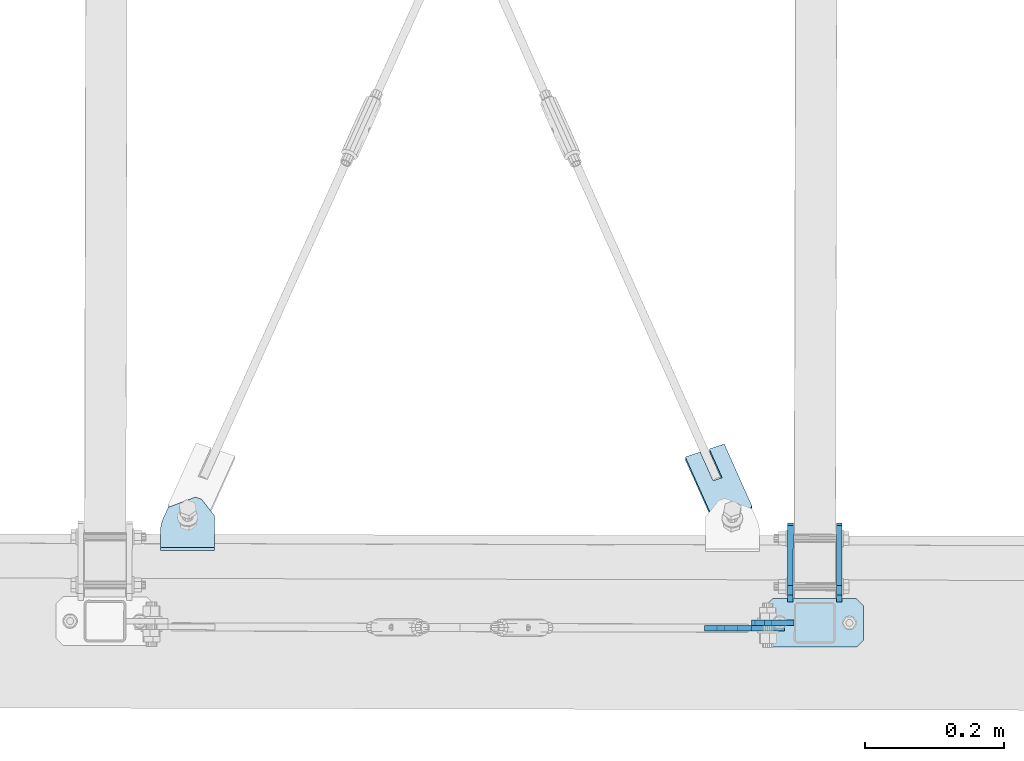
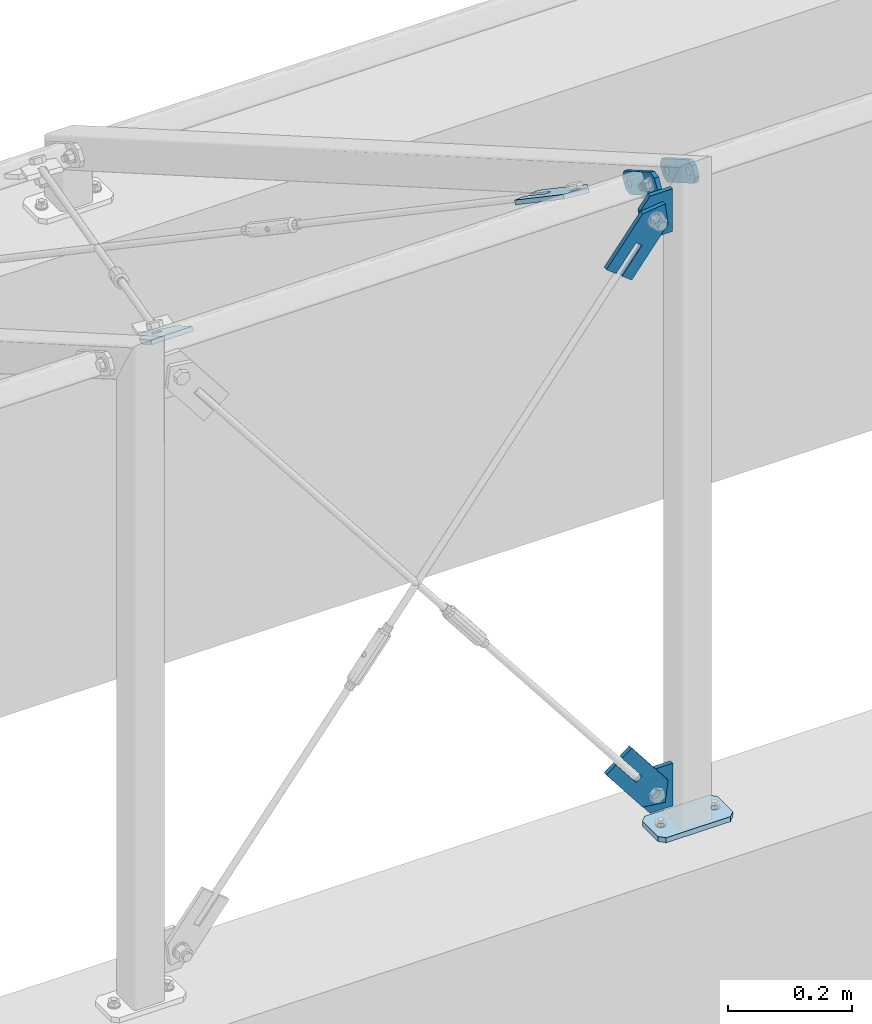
# One storey, part 34 of 288: 9 plates, 38 openings.
"""IFC2X3 building model written with IfcOpenShell, lengths in millimetres."""

from ifc_helpers import new_model, entity, si_unit, converted_unit, point, frame, frame_2d, origin, origin_with_axes, origin_2d_with_axis, place, context, project, spatial, polyline, circle_curve, line_curve, trimmed, segment, composite_curve, circle, outline, extrude, material, layer, layer_set, element, save


model = new_model("IFC2X3")

# Units and contexts
model_context = context("Model", 3, precision=1e-09, world=origin_with_axes())
ifc_project = project(units=[si_unit("LENGTHUNIT", "METRE", prefix="MILLI"), si_unit("AREAUNIT", "SQUARE_METRE"), si_unit("VOLUMEUNIT", "CUBIC_METRE"), converted_unit("PLANEANGLEUNIT", "DEGREE", entity("IfcPlaneAngleMeasure", 0.01745329), si_unit("PLANEANGLEUNIT", "RADIAN"), dimensions=[0, 0, 0, 0, 0, 0, 0])], contexts=[model_context])

# Site, building, storey
site_placement = place(None, origin_with_axes())
site = spatial("IfcSite", under=ifc_project, at=site_placement, Name="Remont ?wietlik?w nad MC w NCPP w Opolu", CompositionType="ELEMENT")
building_placement = place(site_placement, origin_with_axes())
building = spatial("IfcBuilding", under=site, at=building_placement, Name="Konstrukcja 1", CompositionType="ELEMENT")
storey_placement = place(building_placement, origin_with_axes())
storey = spatial("IfcBuildingStorey", under=building, at=storey_placement, Name="Default Storey", CompositionType="ELEMENT", Elevation=0.0)

# Plate, openings
ifc_material = material(Name="S235")
ifc_layer_1 = layer(ifc_material, 8.0)
ifc_layer_set_1 = layer_set([ifc_layer_1], Name="S235")
plate_1_placement = place(None, frame((7047.331185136, -116.235143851, 1232.672792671), z_axis=(0.999997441, -0.002262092, 1.05e-07), x_axis=(0.001959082, 0.866023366, -0.499999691)))
plate_1 = element("IfcPlate", 1, at=plate_1_placement, inside=storey, material=ifc_layer_set_1, Name="-", ObjectType="-", context=model_context, shape_type="SweptSolid", body=[
    extrude(outline(polyline([(0.0, 0.0), (120.0, 0.0), (120.0, 40.0), (0.0, 40.0), (0.0, 0.0)])), origin_with_axes(), (0.0, 0.0, 1.0), 8.0),
])
opening_1_placement = place(plate_1_placement, frame((0.0, 0.0, -0.01), z_axis=(0.0, 0.0, 1.0), x_axis=(1.0, 0.0, 0.0)))
element("IfcOpeningElement", 2, at=opening_1_placement, cuts=plate_1, ObjectType="Opening", context=model_context, shape_type="SweptSolid", body=[
    extrude(outline(composite_curve([segment(trimmed(line_curve((0.0, 40.0), (0.0, -1.0), 10.0), [point((0.0, 40.0))], [point((0.0, 30.0))], True, "CARTESIAN"), True, "CONTINUOUS"), segment(trimmed(circle_curve(frame_2d((10.0, 30.0), x_axis=(-1.0, 0.0)), 10.0), [point((0.0, 30.0))], [point((10.0, 40.0))], False, "CARTESIAN"), True, "CONTINUOUS"), segment(trimmed(line_curve((10.0, 40.0), (-1.0, 0.0), 10.0), [point((10.0, 40.0))], [point((0.0, 40.0))], True, "CARTESIAN"), True, "CONTINUOUS")], self_intersect=False)), origin(), (0.0, 0.0, 1.0), 8.02),
])
opening_2_placement = place(plate_1_placement, frame((0.0, 0.0, -0.01), z_axis=(0.0, 0.0, 1.0), x_axis=(1.0, 0.0, 0.0)))
element("IfcOpeningElement", 3, at=opening_2_placement, cuts=plate_1, ObjectType="Opening", context=model_context, shape_type="SweptSolid", body=[
    extrude(outline(composite_curve([segment(trimmed(line_curve((0.0, 0.0), (1.0, 0.0), 10.0), [point((0.0, 0.0))], [point((10.0, 0.0))], True, "CARTESIAN"), True, "CONTINUOUS"), segment(trimmed(circle_curve(frame_2d((10.0, 10.0), x_axis=(-1.0, 0.0)), 10.0), [point((10.0, 0.0))], [point((0.0, 10.0))], False, "CARTESIAN"), True, "CONTINUOUS"), segment(trimmed(line_curve((0.0, 10.0), (0.0, -1.0), 10.0), [point((0.0, 10.0))], [point((0.0, 0.0))], True, "CARTESIAN"), True, "CONTINUOUS")], self_intersect=False)), origin(), (0.0, 0.0, 1.0), 8.02),
])
opening_3_placement = place(plate_1_placement, frame((0.0, 0.0, -0.01), z_axis=(0.0, 0.0, 1.0), x_axis=(1.0, 0.0, 0.0)))
element("IfcOpeningElement", 4, at=opening_3_placement, cuts=plate_1, ObjectType="Opening", context=model_context, shape_type="SweptSolid", body=[
    extrude(outline(composite_curve([segment(trimmed(line_curve((120.0, 40.0), (-1.0, 0.0), 10.0), [point((120.0, 40.0))], [point((110.0, 40.0))], True, "CARTESIAN"), True, "CONTINUOUS"), segment(trimmed(circle_curve(frame_2d((110.0, 30.0), x_axis=(-1.0, 0.0)), 10.0), [point((110.0, 40.0))], [point((120.0, 30.0))], False, "CARTESIAN"), True, "CONTINUOUS"), segment(trimmed(line_curve((120.0, 30.0), (0.0, 1.0), 10.0), [point((120.0, 30.0))], [point((120.0, 40.0))], True, "CARTESIAN"), True, "CONTINUOUS")], self_intersect=False)), origin(), (0.0, 0.0, 1.0), 8.02),
])
opening_4_placement = place(plate_1_placement, frame((0.0, 0.0, -0.01), z_axis=(0.0, 0.0, 1.0), x_axis=(1.0, 0.0, 0.0)))
element("IfcOpeningElement", 5, at=opening_4_placement, cuts=plate_1, ObjectType="Opening", context=model_context, shape_type="SweptSolid", body=[
    extrude(outline(composite_curve([segment(trimmed(line_curve((120.0, 0.0), (0.0, 1.0), 10.0), [point((120.0, 0.0))], [point((120.0, 10.0))], True, "CARTESIAN"), True, "CONTINUOUS"), segment(trimmed(circle_curve(frame_2d((110.0, 10.0), x_axis=(-1.0, 0.0)), 10.0), [point((120.0, 10.0))], [point((110.0, 0.0))], False, "CARTESIAN"), True, "CONTINUOUS"), segment(trimmed(line_curve((110.0, 0.0), (1.0, 0.0), 10.0), [point((110.0, 0.0))], [point((120.0, 0.0))], True, "CARTESIAN"), True, "CONTINUOUS")], self_intersect=False)), origin(), (0.0, 0.0, 1.0), 8.02),
])
opening_5_placement = place(plate_1_placement, frame((27.001, 20.0, -0.5), z_axis=(0.0, 0.0, -1.0), x_axis=(-1.0, 0.0, 0.0)))
element("IfcOpeningElement", 6, at=opening_5_placement, cuts=plate_1, ObjectType="Opening", context=model_context, shape_type="SweptSolid", body=[
    extrude(circle(Radius=7.001, at=frame_2d((7.001, 0.0), x_axis=(1.0, 0.0))), origin(), (0.0, 0.0, -1.0), 9.0),
])
opening_6_placement = place(plate_1_placement, frame((107.001, 20.0, -0.5), z_axis=(0.0, 0.0, -1.0), x_axis=(-1.0, 0.0, 0.0)))
element("IfcOpeningElement", 7, at=opening_6_placement, cuts=plate_1, ObjectType="Opening", context=model_context, shape_type="SweptSolid", body=[
    extrude(circle(Radius=7.001, at=frame_2d((7.001, 0.0), x_axis=(1.0, 0.0))), origin(), (0.0, 0.0, -1.0), 9.0),
])

plate_2_placement = place(None, frame((6977.331213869, -116.076943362, 1232.672531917), z_axis=(0.999997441, -0.002262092, 1.05e-07), x_axis=(0.001959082, 0.866023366, -0.499999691)))
plate_2 = element("IfcPlate", 8, at=plate_2_placement, inside=storey, material=ifc_layer_set_1, Name="-", ObjectType="-", context=model_context, shape_type="SweptSolid", body=[
    extrude(outline(polyline([(0.0, 0.0), (120.0, 0.0), (120.0, 40.0), (0.0, 40.0), (0.0, 0.0)])), origin_with_axes(), (0.0, 0.0, 1.0), 8.0),
])
opening_7_placement = place(plate_2_placement, frame((0.0, 0.0, -0.01), z_axis=(0.0, 0.0, 1.0), x_axis=(1.0, 0.0, 0.0)))
element("IfcOpeningElement", 9, at=opening_7_placement, cuts=plate_2, ObjectType="Opening", context=model_context, shape_type="SweptSolid", body=[
    extrude(outline(composite_curve([segment(trimmed(line_curve((0.0, 40.0), (0.0, -1.0), 10.0), [point((0.0, 40.0))], [point((0.0, 30.0))], True, "CARTESIAN"), True, "CONTINUOUS"), segment(trimmed(circle_curve(frame_2d((10.0, 30.0), x_axis=(-1.0, 0.0)), 10.0), [point((0.0, 30.0))], [point((10.0, 40.0))], False, "CARTESIAN"), True, "CONTINUOUS"), segment(trimmed(line_curve((10.0, 40.0), (-1.0, 0.0), 10.0), [point((10.0, 40.0))], [point((0.0, 40.0))], True, "CARTESIAN"), True, "CONTINUOUS")], self_intersect=False)), origin(), (0.0, 0.0, 1.0), 8.02),
])
opening_8_placement = place(plate_2_placement, frame((0.0, 0.0, -0.01), z_axis=(0.0, 0.0, 1.0), x_axis=(1.0, 0.0, 0.0)))
element("IfcOpeningElement", 10, at=opening_8_placement, cuts=plate_2, ObjectType="Opening", context=model_context, shape_type="SweptSolid", body=[
    extrude(outline(composite_curve([segment(trimmed(line_curve((0.0, 0.0), (1.0, 0.0), 10.0), [point((0.0, 0.0))], [point((10.0, 0.0))], True, "CARTESIAN"), True, "CONTINUOUS"), segment(trimmed(circle_curve(frame_2d((10.0, 10.0), x_axis=(-1.0, 0.0)), 10.0), [point((10.0, 0.0))], [point((0.0, 10.0))], False, "CARTESIAN"), True, "CONTINUOUS"), segment(trimmed(line_curve((0.0, 10.0), (0.0, -1.0), 10.0), [point((0.0, 10.0))], [point((0.0, 0.0))], True, "CARTESIAN"), True, "CONTINUOUS")], self_intersect=False)), origin(), (0.0, 0.0, 1.0), 8.02),
])
opening_9_placement = place(plate_2_placement, frame((0.0, 0.0, -0.01), z_axis=(0.0, 0.0, 1.0), x_axis=(1.0, 0.0, 0.0)))
element("IfcOpeningElement", 11, at=opening_9_placement, cuts=plate_2, ObjectType="Opening", context=model_context, shape_type="SweptSolid", body=[
    extrude(outline(composite_curve([segment(trimmed(line_curve((120.0, 40.0), (-1.0, 0.0), 10.0), [point((120.0, 40.0))], [point((110.0, 40.0))], True, "CARTESIAN"), True, "CONTINUOUS"), segment(trimmed(circle_curve(frame_2d((110.0, 30.0), x_axis=(-1.0, 0.0)), 10.0), [point((110.0, 40.0))], [point((120.0, 30.0))], False, "CARTESIAN"), True, "CONTINUOUS"), segment(trimmed(line_curve((120.0, 30.0), (0.0, 1.0), 10.0), [point((120.0, 30.0))], [point((120.0, 40.0))], True, "CARTESIAN"), True, "CONTINUOUS")], self_intersect=False)), origin(), (0.0, 0.0, 1.0), 8.02),
])
opening_10_placement = place(plate_2_placement, frame((0.0, 0.0, -0.01), z_axis=(0.0, 0.0, 1.0), x_axis=(1.0, 0.0, 0.0)))
element("IfcOpeningElement", 12, at=opening_10_placement, cuts=plate_2, ObjectType="Opening", context=model_context, shape_type="SweptSolid", body=[
    extrude(outline(composite_curve([segment(trimmed(line_curve((120.0, 0.0), (0.0, 1.0), 10.0), [point((120.0, 0.0))], [point((120.0, 10.0))], True, "CARTESIAN"), True, "CONTINUOUS"), segment(trimmed(circle_curve(frame_2d((110.0, 10.0), x_axis=(-1.0, 0.0)), 10.0), [point((120.0, 10.0))], [point((110.0, 0.0))], False, "CARTESIAN"), True, "CONTINUOUS"), segment(trimmed(line_curve((110.0, 0.0), (1.0, 0.0), 10.0), [point((110.0, 0.0))], [point((120.0, 0.0))], True, "CARTESIAN"), True, "CONTINUOUS")], self_intersect=False)), origin(), (0.0, 0.0, 1.0), 8.02),
])
opening_11_placement = place(plate_2_placement, frame((27.001, 20.000292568, -0.5), z_axis=(0.0, 0.0, -1.0), x_axis=(-1.0, 0.0, 0.0)))
element("IfcOpeningElement", 13, at=opening_11_placement, cuts=plate_2, ObjectType="Opening", context=model_context, shape_type="SweptSolid", body=[
    extrude(circle(Radius=7.001, at=frame_2d((7.001, 0.0), x_axis=(1.0, 0.0))), origin(), (0.0, 0.0, -1.0), 9.0),
])
opening_12_placement = place(plate_2_placement, frame((107.001, 20.000292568, -0.5), z_axis=(0.0, 0.0, -1.0), x_axis=(-1.0, 0.0, 0.0)))
element("IfcOpeningElement", 14, at=opening_12_placement, cuts=plate_2, ObjectType="Opening", context=model_context, shape_type="SweptSolid", body=[
    extrude(circle(Radius=7.001, at=frame_2d((7.001, 0.0), x_axis=(1.0, 0.0))), origin(), (0.0, 0.0, -1.0), 9.0),
])

ifc_layer_2 = layer(ifc_material, 10.0)
ifc_layer_set_2 = layer_set([ifc_layer_2], Name="S235")
plate_3_placement = place(None, frame((7086.354406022, -105.97632538, 10.00000014), z_axis=(0.0, 0.0, -1.0), x_axis=(-0.002261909, -0.999997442, 0.0)))
plate_3 = element("IfcPlate", 15, at=plate_3_placement, inside=storey, material=ifc_layer_set_2, Name="Baseplate", ObjectType="Baseplate", context=model_context, shape_type="SweptSolid", body=[
    extrude(outline(polyline([(0.0, 0.0), (70.0, 0.0), (70.0, 140.0), (0.0, 140.0), (0.0, 0.0)])), origin_with_axes(), (0.0, 0.0, 1.0), 10.0),
])
opening_13_placement = place(plate_3_placement, frame((0.0, 0.0, -0.01), z_axis=(0.0, 0.0, 1.0), x_axis=(1.0, 0.0, 0.0)))
element("IfcOpeningElement", 16, at=opening_13_placement, cuts=plate_3, ObjectType="Opening", context=model_context, shape_type="SweptSolid", body=[
    extrude(outline(composite_curve([segment(trimmed(line_curve((70.0, 0.0), (0.0, 1.0), 10.0), [point((70.0, 0.0))], [point((70.0, 10.0))], True, "CARTESIAN"), True, "CONTINUOUS"), segment(trimmed(circle_curve(frame_2d((60.0, 10.0), x_axis=(-1.0, 0.0)), 10.0), [point((70.0, 10.0))], [point((60.0, 0.0))], False, "CARTESIAN"), True, "CONTINUOUS"), segment(trimmed(line_curve((60.0, 0.0), (1.0, 0.0), 10.0), [point((60.0, 0.0))], [point((70.0, 0.0))], True, "CARTESIAN"), True, "CONTINUOUS")], self_intersect=False)), origin(), (0.0, 0.0, 1.0), 10.02),
])
opening_14_placement = place(plate_3_placement, frame((0.0, 0.0, -0.01), z_axis=(0.0, 0.0, 1.0), x_axis=(1.0, 0.0, 0.0)))
element("IfcOpeningElement", 17, at=opening_14_placement, cuts=plate_3, ObjectType="Opening", context=model_context, shape_type="SweptSolid", body=[
    extrude(outline(composite_curve([segment(trimmed(line_curve((0.0, 0.0), (1.0, 0.0), 10.0), [point((0.0, 0.0))], [point((10.0, 0.0))], True, "CARTESIAN"), True, "CONTINUOUS"), segment(trimmed(circle_curve(frame_2d((10.0, 10.0), x_axis=(-1.0, 0.0)), 10.0), [point((10.0, 0.0))], [point((0.0, 10.0))], False, "CARTESIAN"), True, "CONTINUOUS"), segment(trimmed(line_curve((0.0, 10.0), (0.0, -1.0), 10.0), [point((0.0, 10.0))], [point((0.0, 0.0))], True, "CARTESIAN"), True, "CONTINUOUS")], self_intersect=False)), origin(), (0.0, 0.0, 1.0), 10.02),
])
opening_15_placement = place(plate_3_placement, frame((0.0, 0.0, -0.01), z_axis=(0.0, 0.0, 1.0), x_axis=(1.0, 0.0, 0.0)))
element("IfcOpeningElement", 18, at=opening_15_placement, cuts=plate_3, ObjectType="Opening", context=model_context, shape_type="SweptSolid", body=[
    extrude(outline(composite_curve([segment(trimmed(line_curve((70.0, 140.0), (-1.0, 0.0), 10.0), [point((70.0, 140.0))], [point((60.0, 140.0))], True, "CARTESIAN"), True, "CONTINUOUS"), segment(trimmed(circle_curve(frame_2d((60.0, 130.0), x_axis=(-1.0, 0.0)), 10.0), [point((60.0, 140.0))], [point((70.0, 130.0))], False, "CARTESIAN"), True, "CONTINUOUS"), segment(trimmed(line_curve((70.0, 130.0), (0.0, 1.0), 10.0), [point((70.0, 130.0))], [point((70.0, 140.0))], True, "CARTESIAN"), True, "CONTINUOUS")], self_intersect=False)), origin(), (0.0, 0.0, 1.0), 10.02),
])
opening_16_placement = place(plate_3_placement, frame((0.0, 0.0, -0.01), z_axis=(0.0, 0.0, 1.0), x_axis=(1.0, 0.0, 0.0)))
element("IfcOpeningElement", 19, at=opening_16_placement, cuts=plate_3, ObjectType="Opening", context=model_context, shape_type="SweptSolid", body=[
    extrude(outline(composite_curve([segment(trimmed(line_curve((0.0, 140.0), (0.0, -1.0), 10.0), [point((0.0, 140.0))], [point((0.0, 130.0))], True, "CARTESIAN"), True, "CONTINUOUS"), segment(trimmed(circle_curve(frame_2d((10.0, 130.0), x_axis=(-1.0, 0.0)), 10.0), [point((0.0, 130.0))], [point((10.0, 140.0))], False, "CARTESIAN"), True, "CONTINUOUS"), segment(trimmed(line_curve((10.0, 140.0), (-1.0, 0.0), 10.0), [point((10.0, 140.0))], [point((0.0, 140.0))], True, "CARTESIAN"), True, "CONTINUOUS")], self_intersect=False)), origin(), (0.0, 0.0, 1.0), 10.02),
])
opening_17_placement = place(plate_3_placement, frame((35.0, 20.0, 10.5), z_axis=(0.0, 0.0, -1.0), x_axis=(1.0, 0.0, 0.0)))
element("IfcOpeningElement", 20, at=opening_17_placement, cuts=plate_3, ObjectType="Opening", context=model_context, shape_type="SweptSolid", body=[
    extrude(circle(Radius=6.001, at=origin_2d_with_axis()), origin(), (0.0, 0.0, 1.0), 11.0),
])
opening_18_placement = place(plate_3_placement, frame((35.0, 120.0, 10.5), z_axis=(0.0, 0.0, -1.0), x_axis=(1.0, 0.0, 0.0)))
element("IfcOpeningElement", 21, at=opening_18_placement, cuts=plate_3, ObjectType="Opening", context=model_context, shape_type="SweptSolid", body=[
    extrude(circle(Radius=6.001, at=origin_2d_with_axis()), origin(), (0.0, 0.0, 1.0), 11.0),
])

plate_4_placement = place(None, frame((6857.970597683, -144.461027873, 1151.097861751), z_axis=(-0.002254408, -0.999997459, 0.0), x_axis=(0.788044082, -0.001776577, -0.615616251)))
plate_4 = element("IfcPlate", 22, at=plate_4_placement, inside=storey, material=ifc_layer_set_1, Name="Tab_Plate#2", ObjectType="Tab_Plate#2", context=model_context, shape_type="SweptSolid", body=[
    extrude(outline(polyline([(0.0, 0.0), (60.0, 0.0), (60.0, 140.0), (0.0, 140.0), (0.0, 0.0)])), origin_with_axes(), (0.0, 0.0, 1.0), 8.0),
])
opening_19_placement = place(plate_4_placement, frame((0.0, 0.0, -0.01), z_axis=(0.0, 0.0, 1.0), x_axis=(1.0, 0.0, 0.0)))
element("IfcOpeningElement", 23, at=opening_19_placement, cuts=plate_4, ObjectType="Opening", context=model_context, shape_type="SweptSolid", body=[
    extrude(outline(composite_curve([segment(trimmed(line_curve((60.0, 140.0), (-1.0, 0.0), 30.0), [point((60.0, 140.0))], [point((30.0, 140.0))], True, "CARTESIAN"), True, "CONTINUOUS"), segment(trimmed(circle_curve(frame_2d((30.0, 110.0), x_axis=(-1.0, 0.0)), 30.0), [point((30.0, 140.0))], [point((60.0, 110.0))], False, "CARTESIAN"), True, "CONTINUOUS"), segment(trimmed(line_curve((60.0, 110.0), (0.0, 1.0), 30.0), [point((60.0, 110.0))], [point((60.0, 140.0))], True, "CARTESIAN"), True, "CONTINUOUS")], self_intersect=False)), origin(), (0.0, 0.0, 1.0), 8.02),
])
opening_20_placement = place(plate_4_placement, frame((0.0, 0.0, -0.01), z_axis=(0.0, 0.0, 1.0), x_axis=(1.0, 0.0, 0.0)))
element("IfcOpeningElement", 24, at=opening_20_placement, cuts=plate_4, ObjectType="Opening", context=model_context, shape_type="SweptSolid", body=[
    extrude(outline(composite_curve([segment(trimmed(line_curve((0.0, 140.0), (0.0, -1.0), 30.0), [point((0.0, 140.0))], [point((0.0, 110.0))], True, "CARTESIAN"), True, "CONTINUOUS"), segment(trimmed(circle_curve(frame_2d((30.0, 110.0), x_axis=(-1.0, 0.0)), 30.0), [point((0.0, 110.0))], [point((30.0, 140.0))], False, "CARTESIAN"), True, "CONTINUOUS"), segment(trimmed(line_curve((30.0, 140.0), (-1.0, 0.0), 30.0), [point((30.0, 140.0))], [point((0.0, 140.0))], True, "CARTESIAN"), True, "CONTINUOUS")], self_intersect=False)), origin(), (0.0, 0.0, 1.0), 8.02),
])
opening_21_placement = place(plate_4_placement, frame((0.0, 0.0, 8.1), z_axis=(0.0, 0.0, -1.0), x_axis=(-0.788046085, -0.615616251, 0.0)))
element("IfcOpeningElement", 25, at=opening_21_placement, cuts=plate_4, ObjectType="Opening", context=model_context, shape_type="SweptSolid", body=[
    extrude(outline(polyline([(-55.677478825, 33.913041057), (-66.711700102, 25.293182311), (-29.157877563, -22.779204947), (-18.123656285, -14.159346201), (-55.677478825, 33.913041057)])), origin(), (0.0, 0.0, 1.0), 8.2),
])
opening_22_placement = place(plate_4_placement, frame((30.0, 110.0, 8.5), z_axis=(0.0, 0.0, -1.0), x_axis=(0.0, -1.0, 0.0)))
element("IfcOpeningElement", 26, at=opening_22_placement, cuts=plate_4, ObjectType="Opening", context=model_context, shape_type="SweptSolid", body=[
    extrude(circle(Radius=9.001, at=origin_2d_with_axis()), origin(), (0.0, 0.0, 1.0), 9.0),
])

plate_5_placement = place(None, frame((6954.502417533, -144.67865049, 1177.20457347), z_axis=(0.002254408, 0.999997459, 0.0), x_axis=(-0.788044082, 0.001776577, 0.615616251)))
plate_5 = element("IfcPlate", 27, at=plate_5_placement, inside=storey, material=ifc_layer_set_1, Name="Gusset#2", ObjectType="Gusset#2", context=model_context, shape_type="SweptSolid", body=[
    extrude(outline(polyline([(0.0, 0.0), (60.0, 0.0), (60.0, 60.0), (26.815458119, 85.923538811), (-25.031582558, 19.554502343), (0.0, 0.0)])), origin_with_axes(), (0.0, 0.0, 1.0), 8.0),
])
opening_23_placement = place(plate_5_placement, frame((30.0, 30.0, -0.5), z_axis=(0.0, 0.0, 1.0), x_axis=(0.0, -1.0, 0.0)))
element("IfcOpeningElement", 28, at=opening_23_placement, cuts=plate_5, ObjectType="Opening", context=model_context, shape_type="SweptSolid", body=[
    extrude(circle(Radius=9.001, at=origin_2d_with_axis()), origin(), (0.0, 0.0, 1.0), 9.0),
])
opening_24_placement = place(plate_5_placement, frame((0.0, 0.0, -0.01), z_axis=(0.0, 0.0, 1.0), x_axis=(1.0, 0.0, 0.0)))
element("IfcOpeningElement", 29, at=opening_24_placement, cuts=plate_5, ObjectType="Opening", context=model_context, shape_type="SweptSolid", body=[
    extrude(outline(composite_curve([segment(trimmed(line_curve((60.0, 0.0), (0.0, 1.0), 30.0), [point((60.0, 0.0))], [point((60.0, 30.0))], True, "CARTESIAN"), True, "CONTINUOUS"), segment(trimmed(circle_curve(frame_2d((30.0, 30.0), x_axis=(-1.0, 0.0)), 30.0), [point((60.0, 30.0))], [point((30.0, 0.0))], False, "CARTESIAN"), True, "CONTINUOUS"), segment(trimmed(line_curve((30.0, 0.0), (1.0, 0.0), 30.0), [point((30.0, 0.0))], [point((60.0, 0.0))], True, "CARTESIAN"), True, "CONTINUOUS")], self_intersect=False)), origin(), (0.0, 0.0, 1.0), 8.02),
])

plate_6_placement = place(None, frame((6857.952490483, -152.466280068, 153.902138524), z_axis=(0.002269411, 0.999997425, 0.0), x_axis=(0.788044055, -0.0017884, 0.615616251)))
plate_6 = element("IfcPlate", 30, at=plate_6_placement, inside=storey, material=ifc_layer_set_1, Name="Tab_Plate#1", ObjectType="Tab_Plate#1", context=model_context, shape_type="SweptSolid", body=[
    extrude(outline(polyline([(0.0, 0.0), (60.0, 0.0), (60.0, 140.0), (0.0, 140.0), (0.0, 0.0)])), origin_with_axes(), (0.0, 0.0, 1.0), 8.0),
])
opening_25_placement = place(plate_6_placement, frame((0.0, 0.0, -0.01), z_axis=(0.0, 0.0, 1.0), x_axis=(1.0, 0.0, 0.0)))
element("IfcOpeningElement", 31, at=opening_25_placement, cuts=plate_6, ObjectType="Opening", context=model_context, shape_type="SweptSolid", body=[
    extrude(outline(composite_curve([segment(trimmed(line_curve((60.0, 140.0), (-1.0, 0.0), 30.0), [point((60.0, 140.0))], [point((30.0, 140.0))], True, "CARTESIAN"), True, "CONTINUOUS"), segment(trimmed(circle_curve(frame_2d((30.0, 110.0), x_axis=(-1.0, 0.0)), 30.0), [point((30.0, 140.0))], [point((60.0, 110.0))], False, "CARTESIAN"), True, "CONTINUOUS"), segment(trimmed(line_curve((60.0, 110.0), (0.0, 1.0), 30.0), [point((60.0, 110.0))], [point((60.0, 140.0))], True, "CARTESIAN"), True, "CONTINUOUS")], self_intersect=False)), origin(), (0.0, 0.0, 1.0), 8.02),
])
opening_26_placement = place(plate_6_placement, frame((0.0, 0.0, -0.01), z_axis=(0.0, 0.0, 1.0), x_axis=(1.0, 0.0, 0.0)))
element("IfcOpeningElement", 32, at=opening_26_placement, cuts=plate_6, ObjectType="Opening", context=model_context, shape_type="SweptSolid", body=[
    extrude(outline(composite_curve([segment(trimmed(line_curve((0.0, 140.0), (0.0, -1.0), 30.0), [point((0.0, 140.0))], [point((0.0, 110.0))], True, "CARTESIAN"), True, "CONTINUOUS"), segment(trimmed(circle_curve(frame_2d((30.0, 110.0), x_axis=(-1.0, 0.0)), 30.0), [point((0.0, 110.0))], [point((30.0, 140.0))], False, "CARTESIAN"), True, "CONTINUOUS"), segment(trimmed(line_curve((30.0, 140.0), (-1.0, 0.0), 30.0), [point((30.0, 140.0))], [point((0.0, 140.0))], True, "CARTESIAN"), True, "CONTINUOUS")], self_intersect=False)), origin(), (0.0, 0.0, 1.0), 8.02),
])
opening_27_placement = place(plate_6_placement, frame((0.0, 0.0, 8.1), z_axis=(0.0, 0.0, -1.0), x_axis=(0.788046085, 0.615616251, 0.0)))
element("IfcOpeningElement", 33, at=opening_27_placement, cuts=plate_6, ObjectType="Opening", context=model_context, shape_type="SweptSolid", body=[
    extrude(outline(polyline([(55.677478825, -33.913041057), (66.711700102, -25.293182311), (29.157877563, 22.779204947), (18.123656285, 14.159346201), (55.677478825, -33.913041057)])), origin(), (0.0, 0.0, 1.0), 8.2),
])
opening_28_placement = place(plate_6_placement, frame((30.0, 110.0, 8.5), z_axis=(0.0, 0.0, -1.0), x_axis=(0.0, -1.0, 0.0)))
element("IfcOpeningElement", 34, at=opening_28_placement, cuts=plate_6, ObjectType="Opening", context=model_context, shape_type="SweptSolid", body=[
    extrude(circle(Radius=9.001, at=origin_2d_with_axis()), origin(), (0.0, 0.0, 1.0), 9.0),
])

plate_7_placement = place(None, frame((6954.520617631, -136.685392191, 127.795426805), z_axis=(-0.002269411, -0.999997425, 0.0), x_axis=(-0.788044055, 0.0017884, -0.615616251)))
plate_7 = element("IfcPlate", 35, at=plate_7_placement, inside=storey, material=ifc_layer_set_1, Name="Gusset#1", ObjectType="Gusset#1", context=model_context, shape_type="SweptSolid", body=[
    extrude(outline(polyline([(0.0, 0.0), (60.0, 0.0), (60.0, 60.0), (26.815552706, 85.923464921), (-25.031487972, 19.554428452), (0.0, 0.0)])), origin_with_axes(), (0.0, 0.0, 1.0), 8.0),
])
opening_29_placement = place(plate_7_placement, frame((30.0, 30.0, -0.5), z_axis=(0.0, 0.0, 1.0), x_axis=(0.0, -1.0, 0.0)))
element("IfcOpeningElement", 36, at=opening_29_placement, cuts=plate_7, ObjectType="Opening", context=model_context, shape_type="SweptSolid", body=[
    extrude(circle(Radius=9.001, at=origin_2d_with_axis()), origin(), (0.0, 0.0, 1.0), 9.0),
])
opening_30_placement = place(plate_7_placement, frame((0.0, 0.0, -0.01), z_axis=(0.0, 0.0, 1.0), x_axis=(1.0, 0.0, 0.0)))
element("IfcOpeningElement", 37, at=opening_30_placement, cuts=plate_7, ObjectType="Opening", context=model_context, shape_type="SweptSolid", body=[
    extrude(outline(composite_curve([segment(trimmed(line_curve((60.0, 0.0), (0.0, 1.0), 30.0), [point((60.0, 0.0))], [point((60.0, 30.0))], True, "CARTESIAN"), True, "CONTINUOUS"), segment(trimmed(circle_curve(frame_2d((30.0, 30.0), x_axis=(-1.0, 0.0)), 30.0), [point((60.0, 30.0))], [point((30.0, 0.0))], False, "CARTESIAN"), True, "CONTINUOUS"), segment(trimmed(line_curve((30.0, 0.0), (1.0, 0.0), 30.0), [point((30.0, 0.0))], [point((60.0, 0.0))], True, "CARTESIAN"), True, "CONTINUOUS")], self_intersect=False)), origin(), (0.0, 0.0, 1.0), 8.02),
])

plate_8_placement = place(None, frame((6154.558738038, 26.287485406, 1170.024777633), z_axis=(0.001127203, 0.499998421, 0.866025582), x_axis=(-0.931267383, 0.316048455, -0.181257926)))
plate_8 = element("IfcPlate", 38, at=plate_8_placement, inside=storey, material=ifc_layer_set_1, Name="Gusset#1", ObjectType="Gusset#1", context=model_context, shape_type="SweptSolid", body=[
    extrude(outline(polyline([(0.0, 0.0), (60.0, 0.0), (60.0, 60.0), (45.922042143, 96.193155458), (-26.464268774, 68.037239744), (0.0, 0.0)])), origin_with_axes(), (0.0, 0.0, 1.0), 8.0),
])
opening_31_placement = place(plate_8_placement, frame((30.0, 30.0, -0.5), z_axis=(0.0, 0.0, 1.0), x_axis=(0.0, -1.0, 0.0)))
element("IfcOpeningElement", 39, at=opening_31_placement, cuts=plate_8, ObjectType="Opening", context=model_context, shape_type="SweptSolid", body=[
    extrude(circle(Radius=9.001, at=origin_2d_with_axis()), origin(), (0.0, 0.0, 1.0), 9.0),
])
opening_32_placement = place(plate_8_placement, frame((0.0, 0.0, -0.01), z_axis=(0.0, 0.0, 1.0), x_axis=(1.0, 0.0, 0.0)))
element("IfcOpeningElement", 40, at=opening_32_placement, cuts=plate_8, ObjectType="Opening", context=model_context, shape_type="SweptSolid", body=[
    extrude(outline(composite_curve([segment(trimmed(line_curve((60.0, 0.0), (0.0, 1.0), 30.0), [point((60.0, 0.0))], [point((60.0, 30.0))], True, "CARTESIAN"), True, "CONTINUOUS"), segment(trimmed(circle_curve(frame_2d((30.0, 30.0), x_axis=(-1.0, 0.0)), 30.0), [point((60.0, 30.0))], [point((30.0, 0.0))], False, "CARTESIAN"), True, "CONTINUOUS"), segment(trimmed(line_curve((30.0, 0.0), (1.0, 0.0), 30.0), [point((30.0, 0.0))], [point((60.0, 0.0))], True, "CARTESIAN"), True, "CONTINUOUS")], self_intersect=False)), origin(), (0.0, 0.0, 1.0), 8.02),
])
opening_33_placement = place(plate_8_placement, frame((0.0, 0.0, -0.01), z_axis=(0.0, 0.0, 1.0), x_axis=(1.0, 0.0, 0.0)))
element("IfcOpeningElement", 41, at=opening_33_placement, cuts=plate_8, ObjectType="Opening", context=model_context, shape_type="SweptSolid", body=[
    extrude(outline(composite_curve([segment(trimmed(line_curve((0.0, 0.0), (1.0, 0.0), 20.520511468), [point((0.0, 0.0))], [point((20.520511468, 0.0))], True, "CARTESIAN"), True, "CONTINUOUS"), segment(trimmed(circle_curve(frame_2d((20.520511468, 30.0), x_axis=(-1.0, 0.0)), 30.0), [point((20.520511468, 0.0))], [point((-7.438887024, 19.124705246))], False, "CARTESIAN"), True, "CONTINUOUS"), segment(trimmed(line_curve((-7.438887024, 19.124705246), (0.362509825, -0.93197995), 20.520511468), [point((-7.438887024, 19.124705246))], [point((0.0, 0.0))], True, "CARTESIAN"), True, "CONTINUOUS")], self_intersect=False)), origin(), (0.0, 0.0, 1.0), 8.02),
])
opening_34_placement = place(plate_8_placement, frame((0.0, 0.0, -0.01), z_axis=(0.0, 0.0, 1.0), x_axis=(1.0, 0.0, 0.0)))
element("IfcOpeningElement", 42, at=opening_34_placement, cuts=plate_8, ObjectType="Opening", context=model_context, shape_type="SweptSolid", body=[
    extrude(outline(composite_curve([segment(trimmed(line_curve((60.0, 60.0), (-0.362509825, 0.93197995), 5.62909297), [point((60.0, 60.0))], [point((57.959398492, 65.246201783))], True, "CARTESIAN"), True, "CONTINUOUS"), segment(trimmed(circle_curve(frame_2d((30.0, 54.37090703), x_axis=(-1.0, 0.0)), 30.0), [point((57.959398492, 65.246201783))], [point((60.0, 54.37090703))], False, "CARTESIAN"), True, "CONTINUOUS"), segment(trimmed(line_curve((60.0, 54.37090703), (0.0, 1.0), 5.62909297), [point((60.0, 54.37090703))], [point((60.0, 60.0))], True, "CARTESIAN"), True, "CONTINUOUS")], self_intersect=False)), origin(), (0.0, 0.0, 1.0), 8.02),
])

plate_9_placement = place(None, frame((6886.400452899, 112.039626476, 1128.800973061), z_axis=(0.001127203, 0.499998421, 0.866025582), x_axis=(-0.932687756, -0.311835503, 0.181251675)))
plate_9 = element("IfcPlate", 43, at=plate_9_placement, inside=storey, material=ifc_layer_set_1, Name="Tab_Plate#1", ObjectType="Tab_Plate#1", context=model_context, shape_type="SweptSolid", body=[
    extrude(outline(polyline([(0.0, 0.0), (60.0, 0.0), (60.0, 140.0), (0.0, 140.0), (0.0, 0.0)])), origin_with_axes(), (0.0, 0.0, 1.0), 8.0),
])
opening_35_placement = place(plate_9_placement, frame((0.0, 0.0, -0.01), z_axis=(0.0, 0.0, 1.0), x_axis=(1.0, 0.0, 0.0)))
element("IfcOpeningElement", 44, at=opening_35_placement, cuts=plate_9, ObjectType="Opening", context=model_context, shape_type="SweptSolid", body=[
    extrude(outline(composite_curve([segment(trimmed(line_curve((60.0, 140.0), (-1.0, 0.0), 30.0), [point((60.0, 140.0))], [point((30.0, 140.0))], True, "CARTESIAN"), True, "CONTINUOUS"), segment(trimmed(circle_curve(frame_2d((30.0, 110.0), x_axis=(-1.0, 0.0)), 30.0), [point((30.0, 140.0))], [point((60.0, 110.0))], False, "CARTESIAN"), True, "CONTINUOUS"), segment(trimmed(line_curve((60.0, 110.0), (0.0, 1.0), 30.0), [point((60.0, 110.0))], [point((60.0, 140.0))], True, "CARTESIAN"), True, "CONTINUOUS")], self_intersect=False)), origin(), (0.0, 0.0, 1.0), 8.02),
])
opening_36_placement = place(plate_9_placement, frame((0.0, 0.0, -0.01), z_axis=(0.0, 0.0, 1.0), x_axis=(1.0, 0.0, 0.0)))
element("IfcOpeningElement", 45, at=opening_36_placement, cuts=plate_9, ObjectType="Opening", context=model_context, shape_type="SweptSolid", body=[
    extrude(outline(composite_curve([segment(trimmed(line_curve((0.0, 140.0), (0.0, -1.0), 30.0), [point((0.0, 140.0))], [point((0.0, 110.0))], True, "CARTESIAN"), True, "CONTINUOUS"), segment(trimmed(circle_curve(frame_2d((30.0, 110.0), x_axis=(-1.0, 0.0)), 30.0), [point((0.0, 110.0))], [point((30.0, 140.0))], False, "CARTESIAN"), True, "CONTINUOUS"), segment(trimmed(line_curve((30.0, 140.0), (-1.0, 0.0), 30.0), [point((30.0, 140.0))], [point((0.0, 140.0))], True, "CARTESIAN"), True, "CONTINUOUS")], self_intersect=False)), origin(), (0.0, 0.0, 1.0), 8.02),
])
opening_37_placement = place(plate_9_placement, frame((0.0, 0.0, 8.1), z_axis=(0.0, 0.0, -1.0), x_axis=(-0.931982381, 0.362503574, 0.0)))
element("IfcOpeningElement", 46, at=opening_37_placement, cuts=plate_9, ObjectType="Opening", context=model_context, shape_type="SweptSolid", body=[
    extrude(outline(polyline([(-2.946618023, 55.86925312), (-15.996235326, 60.94502816), (-34.484642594, 13.412062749), (-21.435025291, 8.33628771), (-2.946618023, 55.86925312)])), origin(), (0.0, 0.0, 1.0), 8.2),
])
opening_38_placement = place(plate_9_placement, frame((30.0, 119.001, -0.5), z_axis=(0.0, 0.0, -1.0), x_axis=(-1.0, 0.0, 0.0)))
element("IfcOpeningElement", 47, at=opening_38_placement, cuts=plate_9, ObjectType="Opening", context=model_context, shape_type="SweptSolid", body=[
    extrude(circle(Radius=9.001, at=frame_2d((0.0, -9.001), x_axis=(1.0, 0.0))), origin(), (0.0, 0.0, -1.0), 9.0),
])

save(model, "model.ifc")
